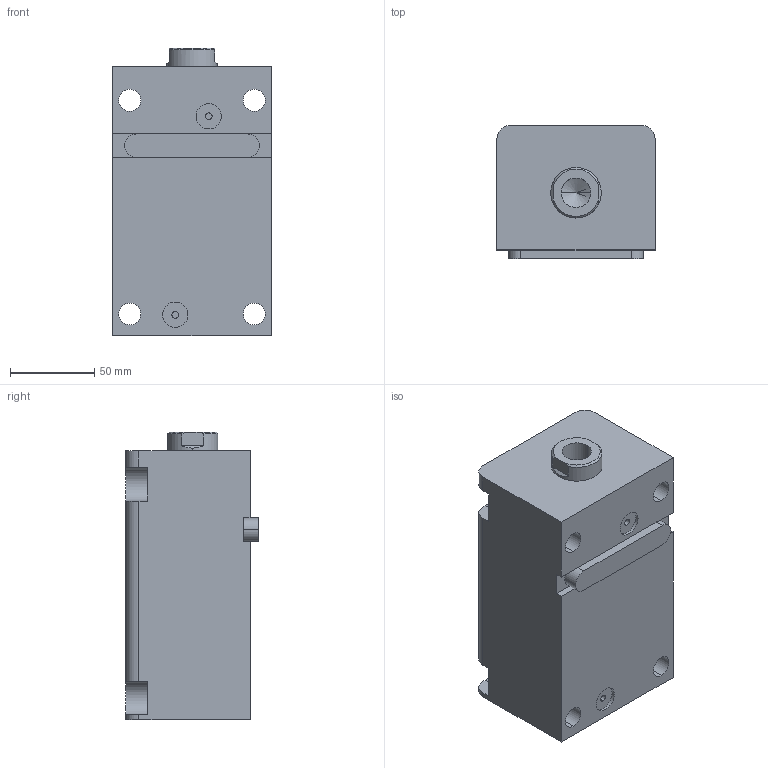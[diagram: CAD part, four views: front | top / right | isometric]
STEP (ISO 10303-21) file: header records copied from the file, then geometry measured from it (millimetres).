
FILE_DESCRIPTION (( 'STEP AP203' ), '1' );
FILE_NAME ('HTB-LAM50-100N.STEP', '2023-03-20T01:15:54', ( '微软用户' ), ( '微软中国' ), 'SwSTEP 2.0', 'SolidWorks 2012', '' );
FILE_SCHEMA (( 'CONFIG_CONTROL_DESIGN' ));
Length unit declared in the file: millimetre
Products named in the file (4): HTB-LAM50-100掛极; HTB-LAM50-100N; HTB-LWM50-瑩; HTB-LAM50-100N活塞杆
Assembly tree (3 placements, depth 2):
  HTB-LAM50-100N
    HTB-LAM50-100掛极
    HTB-LAM50-100N活塞杆
    HTB-LWM50-瑩
Bounding box: 94 x 79 x 171 mm (x, y, z)
Volume: 937471 mm3; surface area: 127877.6 mm2
Topology: 3 solids, 3 shells, 86 faces, 213 edges, 139 vertices
Faces by surface type: cylinder 39, plane 39, torus 4, cone 4
Entity records: 3001 total; most frequent: DIRECTION 475, CARTESIAN_POINT 470, ORIENTED_EDGE 422, EDGE_CURVE 211, AXIS2_PLACEMENT_3D 180, VERTEX_POINT 139, LINE 115, VECTOR 115
